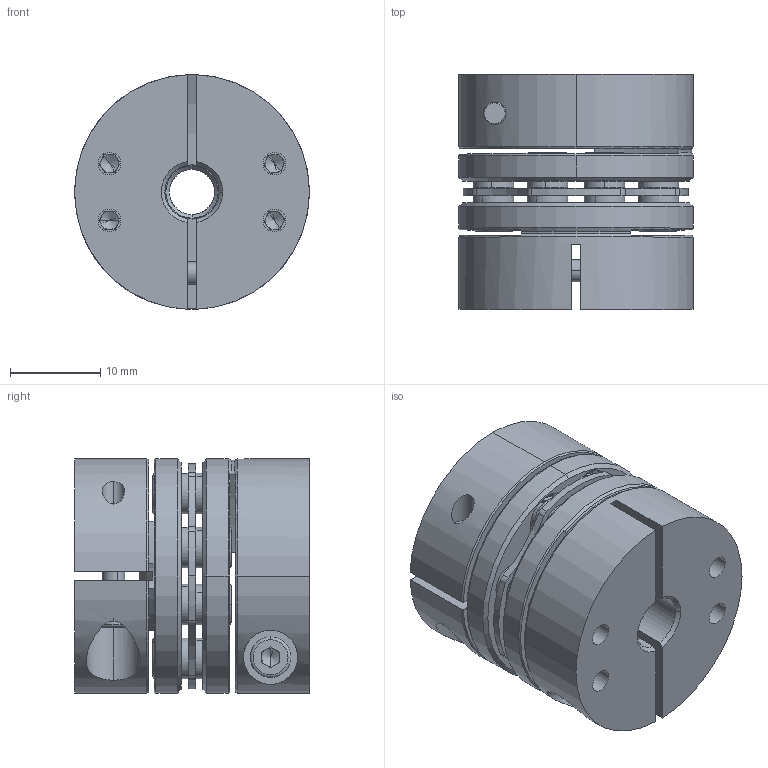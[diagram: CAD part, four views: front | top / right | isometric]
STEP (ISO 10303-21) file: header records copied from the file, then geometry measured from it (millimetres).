
FILE_DESCRIPTION (( 'STEP AP203' ), '1' );
FILE_NAME ('LDG-D26-5-6.STEP', '2021-10-28T03:22:23', ( '' ), ( '' ), 'SwSTEP 2.0', 'SolidWorks 2018', '' );
FILE_SCHEMA (( 'CONFIG_CONTROL_DESIGN' ));
Length unit declared in the file: millimetre
Products named in the file (2): LDG-D26-5-6; 錨璃2^LDG-D26蚾饜芞1
Assembly tree (1 placements, depth 2):
  LDG-D26-5-6
    錨璃2^LDG-D26蚾饜芞1
Bounding box: 26 x 26 x 26 mm (x, y, z)
Volume: 10686.1 mm3; surface area: 9154.9 mm2
Topology: 1 solids, 21 shells, 765 faces, 1872 edges, 1159 vertices
Faces by surface type: cylinder 301, plane 244, cone 200, torus 20
Entity records: 23059 total; most frequent: DIRECTION 4281, CARTESIAN_POINT 4166, ORIENTED_EDGE 3688, EDGE_CURVE 1844, AXIS2_PLACEMENT_3D 1740, VERTEX_POINT 1159, CIRCLE 971, EDGE_LOOP 909
